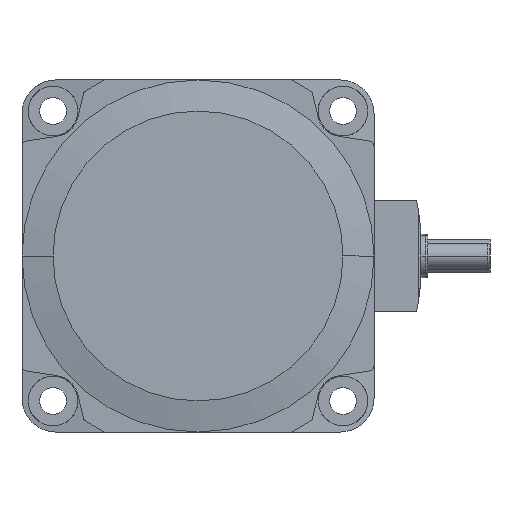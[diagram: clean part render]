
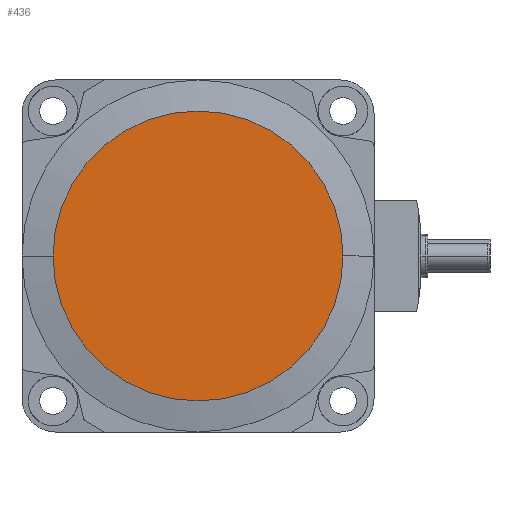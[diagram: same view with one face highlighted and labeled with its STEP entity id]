
A CAD part, left-side view. The second image highlights one B-rep face of the part: STEP entity #436.
In plain terms, the highlighted planar face has unit normal (-1, 0, 0).
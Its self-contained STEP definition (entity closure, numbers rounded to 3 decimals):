
#436 = ADVANCED_FACE( '', ( #1187 ), #1188, .T. );
#1187 = FACE_OUTER_BOUND( '', #1938, .T. );
#1188 = PLANE( '', #1939 );
#1938 = EDGE_LOOP( '', ( #5061, #5062 ) );
#1939 = AXIS2_PLACEMENT_3D( '', #5063, #5064, #5065 );
#5061 = ORIENTED_EDGE( '', *, *, #6077, .T. );
#5062 = ORIENTED_EDGE( '', *, *, #5067, .T. );
#5063 = CARTESIAN_POINT( '', ( -122.7, 22.737, 42.5 ) );
#5064 = DIRECTION( '', ( -1., 0., 0. ) );
#5065 = DIRECTION( '', ( 0., 1., 0. ) );
#5067 = EDGE_CURVE( '', #6089, #6086, #6090, .T. );
#6077 = EDGE_CURVE( '', #6086, #6089, #7774, .T. );
#6086 = VERTEX_POINT( '', #7783 );
#6089 = VERTEX_POINT( '', #7787 );
#6090 = CIRCLE( '', #7788, 35. );
#7774 = CIRCLE( '', #10336, 35. );
#7783 = CARTESIAN_POINT( '', ( -122.7, 35., 0. ) );
#7787 = CARTESIAN_POINT( '', ( -122.7, -35., 0. ) );
#7788 = AXIS2_PLACEMENT_3D( '', #10346, #10347, #10348 );
#10336 = AXIS2_PLACEMENT_3D( '', #11960, #11961, #11962 );
#10346 = CARTESIAN_POINT( '', ( -122.7, 0., 0. ) );
#10347 = DIRECTION( '', ( -1., 0., 0. ) );
#10348 = DIRECTION( '', ( 0., 1., 0. ) );
#11960 = CARTESIAN_POINT( '', ( -122.7, 0., 0. ) );
#11961 = DIRECTION( '', ( -1., 0., 0. ) );
#11962 = DIRECTION( '', ( 0., 1., 0. ) );
